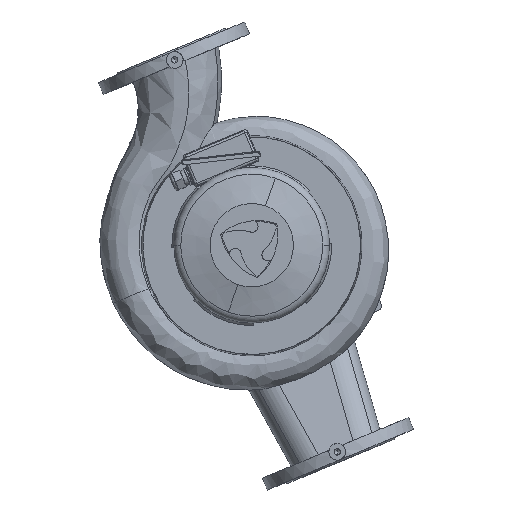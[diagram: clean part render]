
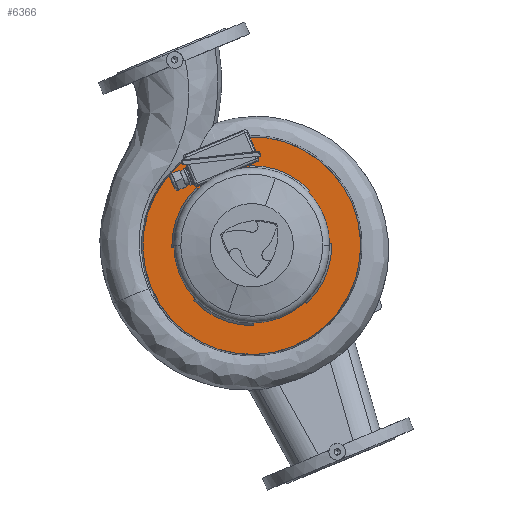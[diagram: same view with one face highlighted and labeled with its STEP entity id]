
A CAD part, top view. The second image highlights one B-rep face of the part: STEP entity #6366.
In plain terms, the highlighted planar face has unit normal (0, 0, 1) as drawn and (1, 0, 0) by its records, which use the part's own axes.
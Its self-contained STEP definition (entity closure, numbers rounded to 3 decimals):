
#6366=ADVANCED_FACE('',(#12341,#12342),#12343,.T.);
#6390=EDGE_CURVE('',#12382,#12383,#12384,.T.);
#6414=EDGE_CURVE('',#12426,#12427,#12428,.T.);
#6422=EDGE_CURVE('',#12436,#12439,#12440,.T.);
#6430=EDGE_CURVE('',#12448,#12451,#12452,.T.);
#6436=EDGE_CURVE('',#12455,#12427,#12460,.T.);
#6438=EDGE_CURVE('',#12462,#12439,#12463,.T.);
#6446=EDGE_CURVE('',#12474,#12470,#12475,.T.);
#6454=EDGE_CURVE('',#12485,#12481,#12486,.T.);
#6462=EDGE_CURVE('',#12492,#12495,#12496,.T.);
#6472=EDGE_CURVE('',#12506,#12436,#12509,.T.);
#6478=EDGE_CURVE('',#12514,#12448,#12517,.T.);
#6486=EDGE_CURVE('',#12525,#12520,#12528,.T.);
#6488=EDGE_CURVE('',#12451,#12470,#12530,.T.);
#6492=EDGE_CURVE('',#12520,#12481,#12534,.T.);
#6496=EDGE_CURVE('',#12495,#12426,#12538,.T.);
#6500=EDGE_CURVE('',#12462,#12514,#12542,.T.);
#6504=EDGE_CURVE('',#12474,#12525,#12546,.T.);
#6506=EDGE_CURVE('',#12455,#12506,#12548,.T.);
#6510=EDGE_CURVE('',#12383,#12382,#12552,.T.);
#6512=EDGE_CURVE('',#12485,#12492,#12554,.T.);
#12341=FACE_OUTER_BOUND('',#25294,.T.);
#12342=FACE_BOUND('',#25295,.T.);
#12343=PLANE('',#25296);
#12382=VERTEX_POINT('',#25337);
#12383=VERTEX_POINT('',#25338);
#12384=CIRCLE('',#25339,196.0);
#12426=VERTEX_POINT('',#25393);
#12427=VERTEX_POINT('',#25394);
#12428=CIRCLE('',#25395,132.799);
#12436=VERTEX_POINT('',#25415);
#12439=VERTEX_POINT('',#25428);
#12440=CIRCLE('',#25429,132.799);
#12448=VERTEX_POINT('',#25449);
#12451=VERTEX_POINT('',#25462);
#12452=CIRCLE('',#25463,132.799);
#12455=VERTEX_POINT('',#25467);
#12460=LINE('',#25484,#25485);
#12462=VERTEX_POINT('',#25488);
#12463=LINE('',#25489,#25490);
#12470=VERTEX_POINT('',#25510);
#12474=VERTEX_POINT('',#25524);
#12475=LINE('',#25525,#25526);
#12481=VERTEX_POINT('',#25545);
#12485=VERTEX_POINT('',#25559);
#12486=LINE('',#25560,#25561);
#12492=VERTEX_POINT('',#25580);
#12495=VERTEX_POINT('',#25593);
#12496=LINE('',#25594,#25595);
#12506=VERTEX_POINT('',#25620);
#12509=LINE('',#25633,#25634);
#12514=VERTEX_POINT('',#25642);
#12517=LINE('',#25655,#25656);
#12520=VERTEX_POINT('',#25660);
#12525=VERTEX_POINT('',#25677);
#12528=LINE('',#25690,#25691);
#12530=CIRCLE('',#25694,132.799);
#12534=CIRCLE('',#25700,132.799);
#12538=CIRCLE('',#25706,132.799);
#12542=CIRCLE('',#25712,144.0);
#12546=CIRCLE('',#25718,144.0);
#12548=CIRCLE('',#25721,144.0);
#12552=CIRCLE('',#25727,196.0);
#12554=CIRCLE('',#25730,144.0);
#25294=EDGE_LOOP('',(#33868,#33869));
#25295=EDGE_LOOP('',(#33870,#33871,#33872,#33873,#33874,#33875,#33876,#33877,#33878,#33879,#33880,#33881,#33882,#33883,#33884,#33885,#33886,#33887));
#25296=AXIS2_PLACEMENT_3D('',#33888,#33889,#33890);
#25337=CARTESIAN_POINT('',(20.0,196.0,0.0));
#25338=CARTESIAN_POINT('',(20.0,-196.0,0.));
#25339=AXIS2_PLACEMENT_3D('',#33990,#33991,#33992);
#25393=CARTESIAN_POINT('',(20.0,-132.799,0.));
#25394=CARTESIAN_POINT('',(20.0,-123.51,-48.794));
#25395=AXIS2_PLACEMENT_3D('',#34026,#34027,#34028);
#25415=CARTESIAN_POINT('',(20.0,-48.794,-123.51));
#25428=CARTESIAN_POINT('',(20.0,48.794,-123.51));
#25429=AXIS2_PLACEMENT_3D('',#34032,#34033,#34034);
#25449=CARTESIAN_POINT('',(20.0,123.51,-48.794));
#25462=CARTESIAN_POINT('',(20.0,132.799,0.));
#25463=AXIS2_PLACEMENT_3D('',#34038,#34039,#34040);
#25467=CARTESIAN_POINT('',(20.0,-134.395,-51.711));
#25484=CARTESIAN_POINT('',(20.0,-134.395,-51.711));
#25485=VECTOR('',#34042,1.0);
#25488=CARTESIAN_POINT('',(20.0,51.711,-134.395));
#25489=CARTESIAN_POINT('',(20.0,51.711,-134.395));
#25490=VECTOR('',#34043,1.0);
#25510=CARTESIAN_POINT('',(20.0,123.51,48.794));
#25524=CARTESIAN_POINT('',(20.0,134.395,51.711));
#25525=CARTESIAN_POINT('',(20.0,134.395,51.711));
#25526=VECTOR('',#34045,1.0);
#25545=CARTESIAN_POINT('',(20.0,-48.794,123.51));
#25559=CARTESIAN_POINT('',(20.0,-51.711,134.395));
#25560=CARTESIAN_POINT('',(20.0,-51.711,134.395));
#25561=VECTOR('',#34047,1.0);
#25580=CARTESIAN_POINT('',(20.0,-134.395,51.711));
#25593=CARTESIAN_POINT('',(20.0,-123.51,48.794));
#25594=CARTESIAN_POINT('',(20.0,-134.395,51.711));
#25595=VECTOR('',#34049,1.0);
#25620=CARTESIAN_POINT('',(20.0,-51.711,-134.395));
#25633=CARTESIAN_POINT('',(20.0,-51.711,-134.395));
#25634=VECTOR('',#34052,1.0);
#25642=CARTESIAN_POINT('',(20.0,134.395,-51.711));
#25655=CARTESIAN_POINT('',(20.0,134.395,-51.711));
#25656=VECTOR('',#34054,1.0);
#25660=CARTESIAN_POINT('',(20.0,48.794,123.51));
#25677=CARTESIAN_POINT('',(20.0,51.711,134.395));
#25690=CARTESIAN_POINT('',(20.0,51.711,134.395));
#25691=VECTOR('',#34056,1.0);
#25694=AXIS2_PLACEMENT_3D('',#34057,#34058,#34059);
#25700=AXIS2_PLACEMENT_3D('',#34063,#34064,#34065);
#25706=AXIS2_PLACEMENT_3D('',#34069,#34070,#34071);
#25712=AXIS2_PLACEMENT_3D('',#34075,#34076,#34077);
#25718=AXIS2_PLACEMENT_3D('',#34081,#34082,#34083);
#25721=AXIS2_PLACEMENT_3D('',#34084,#34085,#34086);
#25727=AXIS2_PLACEMENT_3D('',#34090,#34091,#34092);
#25730=AXIS2_PLACEMENT_3D('',#34093,#34094,#34095);
#33868=ORIENTED_EDGE('',*,*,#6390,.T.);
#33869=ORIENTED_EDGE('',*,*,#6510,.T.);
#33870=ORIENTED_EDGE('',*,*,#6512,.F.);
#33871=ORIENTED_EDGE('',*,*,#6454,.T.);
#33872=ORIENTED_EDGE('',*,*,#6492,.F.);
#33873=ORIENTED_EDGE('',*,*,#6486,.F.);
#33874=ORIENTED_EDGE('',*,*,#6504,.F.);
#33875=ORIENTED_EDGE('',*,*,#6446,.T.);
#33876=ORIENTED_EDGE('',*,*,#6488,.F.);
#33877=ORIENTED_EDGE('',*,*,#6430,.F.);
#33878=ORIENTED_EDGE('',*,*,#6478,.F.);
#33879=ORIENTED_EDGE('',*,*,#6500,.F.);
#33880=ORIENTED_EDGE('',*,*,#6438,.T.);
#33881=ORIENTED_EDGE('',*,*,#6422,.F.);
#33882=ORIENTED_EDGE('',*,*,#6472,.F.);
#33883=ORIENTED_EDGE('',*,*,#6506,.F.);
#33884=ORIENTED_EDGE('',*,*,#6436,.T.);
#33885=ORIENTED_EDGE('',*,*,#6414,.F.);
#33886=ORIENTED_EDGE('',*,*,#6496,.F.);
#33887=ORIENTED_EDGE('',*,*,#6462,.F.);
#33888=CARTESIAN_POINT('',(20.0,170.0,0.0));
#33889=DIRECTION('',(1.0,0.0,0.0));
#33890=DIRECTION('',(0.0,0.0,-1.0));
#33990=CARTESIAN_POINT('',(20.0,0.0,0.0));
#33991=DIRECTION('',(1.0,0.0,0.0));
#33992=DIRECTION('',(0.0,1.0,0.0));
#34026=CARTESIAN_POINT('',(20.0,0.0,0.0));
#34027=DIRECTION('',(1.0,0.0,0.0));
#34028=DIRECTION('',(0.0,1.0,0.0));
#34032=CARTESIAN_POINT('',(20.0,0.0,0.0));
#34033=DIRECTION('',(1.0,0.0,0.0));
#34034=DIRECTION('',(0.0,1.0,0.0));
#34038=CARTESIAN_POINT('',(20.0,0.0,0.0));
#34039=DIRECTION('',(1.0,0.0,0.0));
#34040=DIRECTION('',(0.0,1.0,0.0));
#34042=DIRECTION('',(0.,0.966,0.259));
#34043=DIRECTION('',(0.,-0.259,0.966));
#34045=DIRECTION('',(0.,-0.966,-0.259));
#34047=DIRECTION('',(0.,0.259,-0.966));
#34049=DIRECTION('',(0.,0.966,-0.259));
#34052=DIRECTION('',(0.,0.259,0.966));
#34054=DIRECTION('',(0.,-0.966,0.259));
#34056=DIRECTION('',(0.,-0.259,-0.966));
#34057=CARTESIAN_POINT('',(20.0,0.0,0.0));
#34058=DIRECTION('',(1.0,0.0,0.0));
#34059=DIRECTION('',(0.0,1.0,0.0));
#34063=CARTESIAN_POINT('',(20.0,0.0,0.0));
#34064=DIRECTION('',(1.0,0.0,0.0));
#34065=DIRECTION('',(0.0,1.0,0.0));
#34069=CARTESIAN_POINT('',(20.0,0.0,0.0));
#34070=DIRECTION('',(1.0,0.0,0.0));
#34071=DIRECTION('',(0.0,1.0,0.0));
#34075=CARTESIAN_POINT('',(20.0,0.0,0.0));
#34076=DIRECTION('',(1.0,0.0,0.0));
#34077=DIRECTION('',(0.0,1.0,0.0));
#34081=CARTESIAN_POINT('',(20.0,0.0,0.0));
#34082=DIRECTION('',(1.0,0.0,0.0));
#34083=DIRECTION('',(0.0,1.0,0.0));
#34084=CARTESIAN_POINT('',(20.0,0.0,0.0));
#34085=DIRECTION('',(1.0,0.0,0.0));
#34086=DIRECTION('',(0.0,1.0,0.0));
#34090=CARTESIAN_POINT('',(20.0,0.0,0.0));
#34091=DIRECTION('',(1.0,0.0,0.0));
#34092=DIRECTION('',(0.0,1.0,0.0));
#34093=CARTESIAN_POINT('',(20.0,0.0,0.0));
#34094=DIRECTION('',(1.0,0.0,0.0));
#34095=DIRECTION('',(0.0,1.0,0.0));
